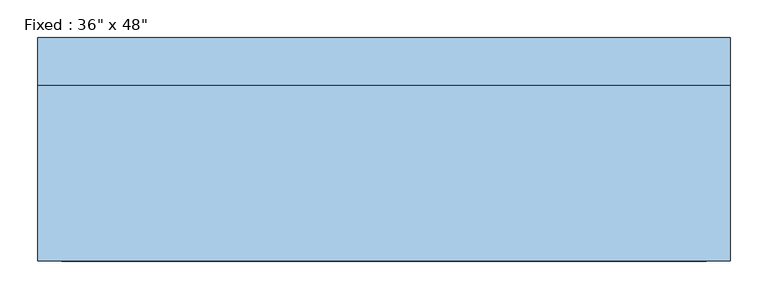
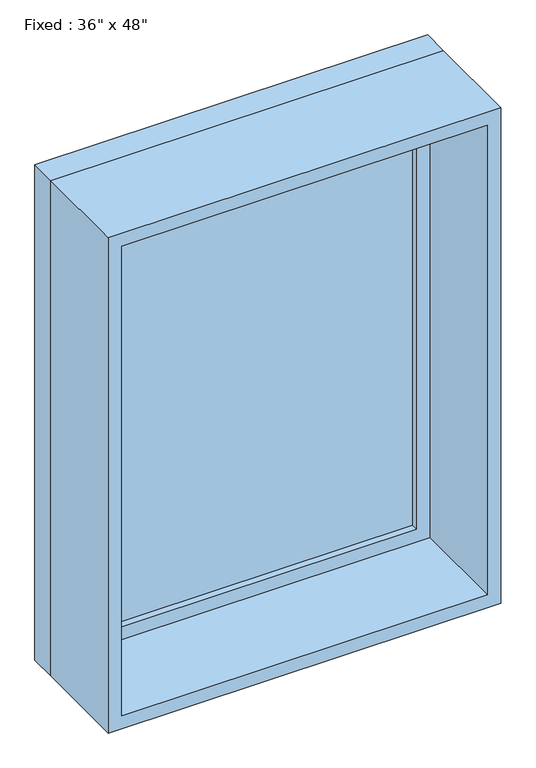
"""IFC4 building model written with IfcOpenShell, lengths in millimetres: window geometry."""

from ifc_helpers import new_model, si_unit, frame, origin, place, context, project, spatial, polyline, outline, extrude, source, transform, mapped, element, save


def window_9bb1ed39(model_context):
    return source(origin(), model_context, "Body", "SweptSolid", [
        extrude(outline(polyline([(355.6, 100.0125), (-431.8, 100.0125), (-431.8, 112.7125), (355.6, 112.7125), (355.6, 100.0125)])), frame((0.0, 0.0, 977.9), z_axis=(0.0, 0.0, 1.0), x_axis=(1.0, 0.0, 0.0)), (0.0, 0.0, 1.0), 1092.2),
        extrude(outline(polyline([(2114.55, -476.25), (933.45, -476.25), (933.45, 400.05), (2114.55, 400.05), (2114.55, -476.25)]), holes=[polyline([(2070.1, -431.8), (2070.1, 355.6), (977.9, 355.6), (977.9, -431.8), (2070.1, -431.8)])]), frame((0.0, 84.1375, 0.0), z_axis=(0.0, 1.0, 0.0), x_axis=(0.0, 0.0, 1.0)), (0.0, 0.0, 1.0), 44.45),
        extrude(outline(polyline([(2133.6, -495.3), (914.4, -495.3), (914.4, 419.1), (2133.6, 419.1), (2133.6, -495.3)]), holes=[polyline([(2101.85, -463.55), (2101.85, 387.35), (946.15, 387.35), (946.15, -463.55), (2101.85, -463.55)])]), frame((0.0, -147.6375, 0.0), z_axis=(0.0, 1.0, 0.0), x_axis=(0.0, 0.0, 1.0)), (0.0, 0.0, 1.0), 231.775),
        extrude(outline(polyline([(2133.6, 419.1), (2133.6, -495.3), (914.4, -495.3), (914.4, 419.1), (2133.6, 419.1)]), holes=[polyline([(2114.55, 400.05), (933.45, 400.05), (933.45, -476.25), (2114.55, -476.25), (2114.55, 400.05)])]), frame((0.0, 84.1375, 0.0), z_axis=(0.0, 1.0, 0.0), x_axis=(0.0, 0.0, 1.0)), (0.0, 0.0, 1.0), 63.5),
    ])


if __name__ == "__main__":
    model = new_model("IFC4")
    model_context = context("Model", 3, world=origin())
    ifc_project = project(units=[si_unit("LENGTHUNIT", "METRE", prefix="MILLI")], contexts=[model_context])
    site = spatial("IfcSite", under=ifc_project)
    building = spatial("IfcBuilding", under=site)
    placement = place(None, origin())
    window_shape = window_9bb1ed39(model_context)
    element("IfcWindow", 1, ObjectType="Fixed : 36\" x 48\"", at=placement, inside=building, context=model_context, shape_type="MappedRepresentation", body=[
        mapped(window_shape, transform((0.0, 0.0, 0.0), x_axis=(1.0, 0.0, 0.0), y_axis=(0.0, 1.0, 0.0), z_axis=(0.0, 0.0, 1.0))),
    ])
    save(model, "model.ifc")
